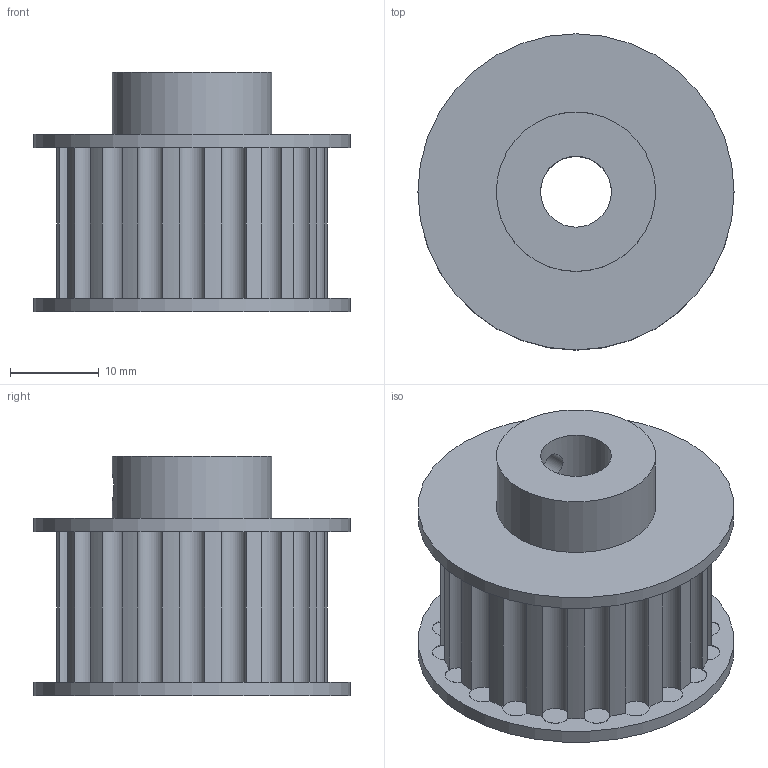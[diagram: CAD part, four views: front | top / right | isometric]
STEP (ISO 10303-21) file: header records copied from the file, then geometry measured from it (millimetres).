
FILE_DESCRIPTION(('Open CASCADE Model'),'2;1');
FILE_NAME('Open CASCADE Shape Model','2026-10-15T02:45:44',('Author'),( 'Open CASCADE'),'Open CASCADE STEP processor 7.9','Open CASCADE 7.9' ,'Unknown');
FILE_SCHEMA(('AUTOMOTIVE_DESIGN { 1 0 10303 214 1 1 1 1 }'));
Length unit declared in the file: millimetre
Products named in the file (1): Open CASCADE STEP translator 7.9 5
Bounding box: 35.7 x 35.7 x 27 mm (x, y, z)
Volume: 14302.3 mm3; surface area: 6614.8 mm2
Topology: 1 solids, 1 shells, 90 faces, 222 edges, 148 vertices
Faces by surface type: cylinder 45, plane 45
Full cylindrical faces by diameter (mm): 3 x20, 3.2 x1, 8 x1, 18 x1, 35.7 x2
Entity records: 6167 total; most frequent: CARTESIAN_POINT 1768, DIRECTION 848, ORIENTED_EDGE 444, PCURVE 444, DEFINITIONAL_REPRESENTATION 444, LINE 288, VECTOR 288, AXIS2_PLACEMENT_3D 237
